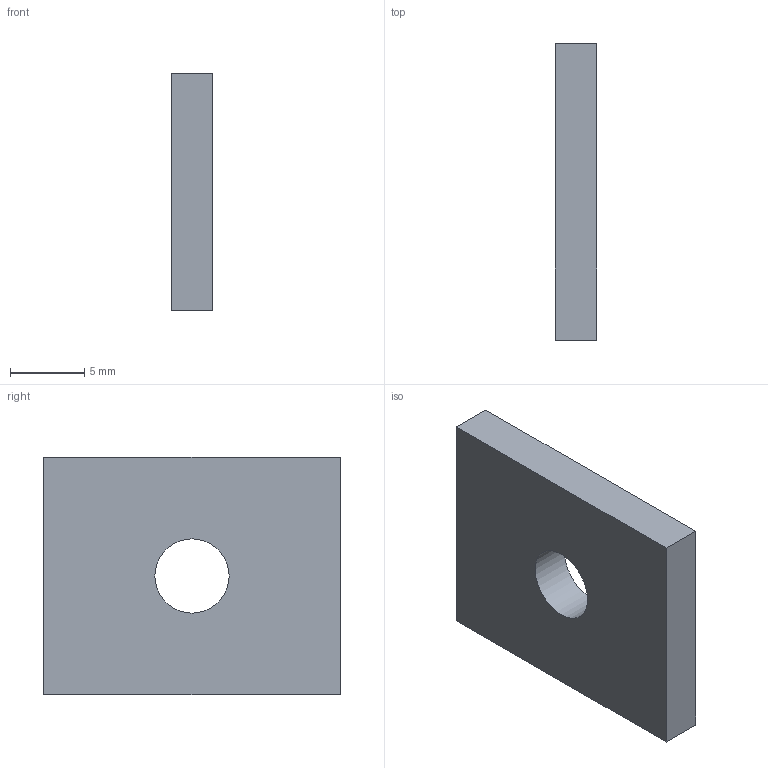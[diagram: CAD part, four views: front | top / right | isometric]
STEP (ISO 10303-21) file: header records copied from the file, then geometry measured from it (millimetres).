
FILE_DESCRIPTION(('Open CASCADE Model'),'2;1');
FILE_NAME('Open CASCADE Shape Model','2026-11-15T10:52:12',('Author'),( 'Open CASCADE'),'Open CASCADE STEP processor 7.8','Open CASCADE 7.8' ,'Unknown');
FILE_SCHEMA(('AUTOMOTIVE_DESIGN { 1 0 10303 214 1 1 1 1 }'));
Length unit declared in the file: millimetre
Products named in the file (1): Open CASCADE STEP translator 7.8 8
Bounding box: 2.8 x 20 x 16 mm (x, y, z)
Volume: 841 mm3; surface area: 846.3 mm2
Topology: 1 solids, 1 shells, 7 faces, 15 edges, 10 vertices
Faces by surface type: plane 6, cylinder 1
Full cylindrical faces by diameter (mm): 5 x1
Entity records: 400 total; most frequent: CARTESIAN_POINT 63, DIRECTION 63, LINE 41, VECTOR 41, ORIENTED_EDGE 30, PCURVE 30, DEFINITIONAL_REPRESENTATION 30, EDGE_CURVE 15
